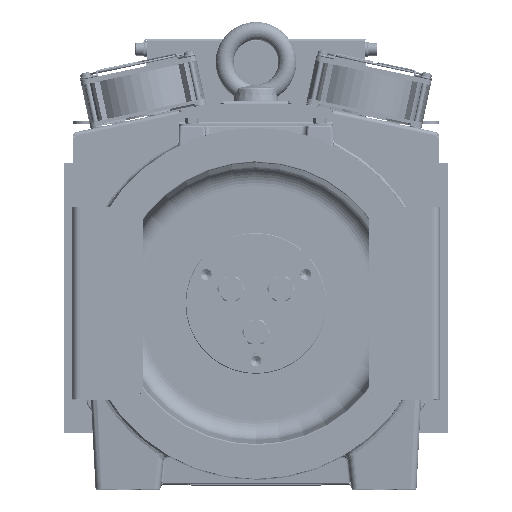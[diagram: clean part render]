
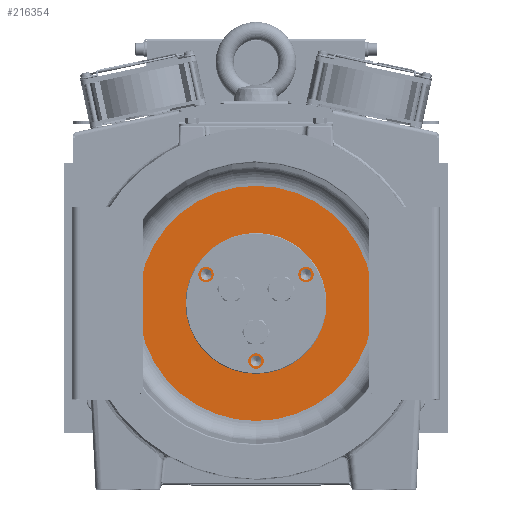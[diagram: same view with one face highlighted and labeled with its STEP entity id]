
A CAD part, top view. The second image highlights one B-rep face of the part: STEP entity #216354.
In plain terms, the highlighted planar face has unit normal (0, 0, 1) as drawn and (0, 0, -1) by its records, which use the part's own axes.
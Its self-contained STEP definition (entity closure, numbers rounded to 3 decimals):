
#215530=DIRECTION('',(0.,1.,0.));
#215531=VECTOR('',#215530,8.177);
#215532=CARTESIAN_POINT('',(10.,35.623,
-35.));
#215533=LINE('',#215532,#215531);
#215534=CARTESIAN_POINT('',(10.,35.623,
-35.));
#215548=CARTESIAN_POINT('',(0.,0.,-35.));
#215549=DIRECTION('',(0.,0.,1.));
#215550=DIRECTION('',(0.,-1.,0.));
#215551=AXIS2_PLACEMENT_3D('',#215548,#215549,#215550);
#215553=CARTESIAN_POINT('',(0.,0.,-35.));
#215554=DIRECTION('',(0.,0.,1.));
#215555=DIRECTION('',(0.,1.,0.));
#215556=AXIS2_PLACEMENT_3D('',#215553,#215554,#215555);
#215558=CARTESIAN_POINT('',(0.,0.,-35.));
#215559=DIRECTION('',(0.,0.,-1.));
#215560=DIRECTION('',(0.27,0.963,0.));
#215561=AXIS2_PLACEMENT_3D('',#215558,#215559,#215560);
#215563=CARTESIAN_POINT('',(0.,0.,-35.));
#215564=DIRECTION('',(0.,0.,-1.));
#215565=DIRECTION('',(0.,-1.,0.));
#215566=AXIS2_PLACEMENT_3D('',#215563,#215564,#215565);
#215568=CARTESIAN_POINT('',(0.,0.,-35.));
#215569=DIRECTION('',(0.,0.,-1.));
#215570=DIRECTION('',(-0.27,-0.963,0.));
#215571=AXIS2_PLACEMENT_3D('',#215568,#215569,#215570);
#215573=CARTESIAN_POINT('',(0.,-45.,-35.));
#215574=DIRECTION('',(0.,0.,-1.));
#215575=DIRECTION('',(1.,0.,0.));
#215576=AXIS2_PLACEMENT_3D('',#215573,#215574,#215575);
#215578=CARTESIAN_POINT('',(0.,-45.,-35.));
#215579=DIRECTION('',(0.,0.,-1.));
#215580=DIRECTION('',(-1.,0.,0.));
#215581=AXIS2_PLACEMENT_3D('',#215578,#215579,#215580);
#215583=CARTESIAN_POINT('',(38.971,22.5,-35.));
#215584=DIRECTION('',(0.,0.,-1.));
#215585=DIRECTION('',(-0.5,0.866,0.));
#215586=AXIS2_PLACEMENT_3D('',#215583,#215584,#215585);
#215588=CARTESIAN_POINT('',(38.971,22.5,-35.));
#215589=DIRECTION('',(0.,0.,-1.));
#215590=DIRECTION('',(0.5,-0.866,0.));
#215591=AXIS2_PLACEMENT_3D('',#215588,#215589,#215590);
#215593=CARTESIAN_POINT('',(-38.971,22.5,-35.));
#215594=DIRECTION('',(0.,0.,-1.));
#215595=DIRECTION('',(-0.5,-0.866,0.));
#215596=AXIS2_PLACEMENT_3D('',#215593,#215594,#215595);
#215598=CARTESIAN_POINT('',(-38.971,22.5,-35.));
#215599=DIRECTION('',(0.,0.,-1.));
#215600=DIRECTION('',(0.5,0.866,0.));
#215601=AXIS2_PLACEMENT_3D('',#215598,#215599,#215600);
#215733=DIRECTION('',(0.,-1.,0.));
#215734=VECTOR('',#215733,8.177);
#215735=CARTESIAN_POINT('',(-10.,43.8,-35.));
#215736=LINE('',#215735,#215734);
#215771=DIRECTION('',(-1.,0.,0.));
#215772=VECTOR('',#215771,20.);
#215773=CARTESIAN_POINT('',(10.,43.8,-35.));
#215774=LINE('',#215773,#215772);
#215929=VERTEX_POINT('',#215534);
#215931=CARTESIAN_POINT('',(10.,43.8,-35.));
#215932=VERTEX_POINT('',#215931);
#215933=CARTESIAN_POINT('',(0.,-37.,-35.));
#215934=VERTEX_POINT('',#215933);
#215935=CARTESIAN_POINT('',(-10.,-35.623,-35.));
#215936=VERTEX_POINT('',#215935);
#215937=CARTESIAN_POINT('',(-10.,35.623,-35.));
#215938=VERTEX_POINT('',#215937);
#215943=CARTESIAN_POINT('',(0.,-91.764,-35.));
#215944=CARTESIAN_POINT('',(0.,91.764,-35.));
#215945=VERTEX_POINT('',#215943);
#215946=VERTEX_POINT('',#215944);
#215947=CARTESIAN_POINT('',(-10.,43.8,-35.));
#215948=VERTEX_POINT('',#215947);
#215949=CARTESIAN_POINT('',(4.25,-45.,-35.));
#215950=CARTESIAN_POINT('',(-4.25,-45.,-35.));
#215951=VERTEX_POINT('',#215949);
#215952=VERTEX_POINT('',#215950);
#215953=CARTESIAN_POINT('',(36.846,26.181,-35.));
#215954=CARTESIAN_POINT('',(41.096,18.819,-35.));
#215955=VERTEX_POINT('',#215953);
#215956=VERTEX_POINT('',#215954);
#215957=CARTESIAN_POINT('',(-41.096,18.819,-35.));
#215958=CARTESIAN_POINT('',(-36.846,26.181,-35.));
#215959=VERTEX_POINT('',#215957);
#215960=VERTEX_POINT('',#215958);
#216315=CARTESIAN_POINT('',(0.,0.,-35.));
#216316=DIRECTION('',(0.,0.,1.));
#216317=DIRECTION('',(0.,1.,0.));
#216318=AXIS2_PLACEMENT_3D('',#216315,#216316,#216317);
#216319=PLANE('',#216318);
#216321=ORIENTED_EDGE('',*,*,#216320,.T.);
#216323=ORIENTED_EDGE('',*,*,#216322,.T.);
#216324=EDGE_LOOP('',(#216321,#216323));
#216325=FACE_OUTER_BOUND('',#216324,.F.);
#216326=ORIENTED_EDGE('',*,*,#216303,.T.);
#216327=ORIENTED_EDGE('',*,*,#216301,.T.);
#216328=ORIENTED_EDGE('',*,*,#216299,.T.);
#216330=ORIENTED_EDGE('',*,*,#216329,.F.);
#216332=ORIENTED_EDGE('',*,*,#216331,.F.);
#216333=ORIENTED_EDGE('',*,*,#216283,.F.);
#216334=EDGE_LOOP('',(#216326,#216327,#216328,#216330,#216332,#216333));
#216335=FACE_BOUND('',#216334,.F.);
#216337=ORIENTED_EDGE('',*,*,#216336,.T.);
#216339=ORIENTED_EDGE('',*,*,#216338,.T.);
#216340=EDGE_LOOP('',(#216337,#216339));
#216341=FACE_BOUND('',#216340,.F.);
#216343=ORIENTED_EDGE('',*,*,#216342,.T.);
#216345=ORIENTED_EDGE('',*,*,#216344,.T.);
#216346=EDGE_LOOP('',(#216343,#216345));
#216347=FACE_BOUND('',#216346,.F.);
#216349=ORIENTED_EDGE('',*,*,#216348,.T.);
#216351=ORIENTED_EDGE('',*,*,#216350,.T.);
#216352=EDGE_LOOP('',(#216349,#216351));
#216353=FACE_BOUND('',#216352,.F.);
#216354=ADVANCED_FACE('',(#216325,#216335,#216341,#216347,#216353),#216319,.F.);
#215552=CIRCLE('',#215551,91.764);
#215557=CIRCLE('',#215556,91.764);
#215562=CIRCLE('',#215561,37.);
#215567=CIRCLE('',#215566,37.);
#215572=CIRCLE('',#215571,37.);
#215577=CIRCLE('',#215576,4.25);
#215582=CIRCLE('',#215581,4.25);
#215587=CIRCLE('',#215586,4.25);
#215592=CIRCLE('',#215591,4.25);
#215597=CIRCLE('',#215596,4.25);
#215602=CIRCLE('',#215601,4.25);
#216283=EDGE_CURVE('',#215929,#215932,#215533,.T.);
#216299=EDGE_CURVE('',#215936,#215938,#215572,.T.);
#216301=EDGE_CURVE('',#215934,#215936,#215567,.T.);
#216303=EDGE_CURVE('',#215929,#215934,#215562,.T.);
#216320=EDGE_CURVE('',#215945,#215946,#215552,.T.);
#216322=EDGE_CURVE('',#215946,#215945,#215557,.T.);
#216329=EDGE_CURVE('',#215948,#215938,#215736,.T.);
#216331=EDGE_CURVE('',#215932,#215948,#215774,.T.);
#216336=EDGE_CURVE('',#215951,#215952,#215577,.T.);
#216338=EDGE_CURVE('',#215952,#215951,#215582,.T.);
#216342=EDGE_CURVE('',#215955,#215956,#215587,.T.);
#216344=EDGE_CURVE('',#215956,#215955,#215592,.T.);
#216348=EDGE_CURVE('',#215959,#215960,#215597,.T.);
#216350=EDGE_CURVE('',#215960,#215959,#215602,.T.);
